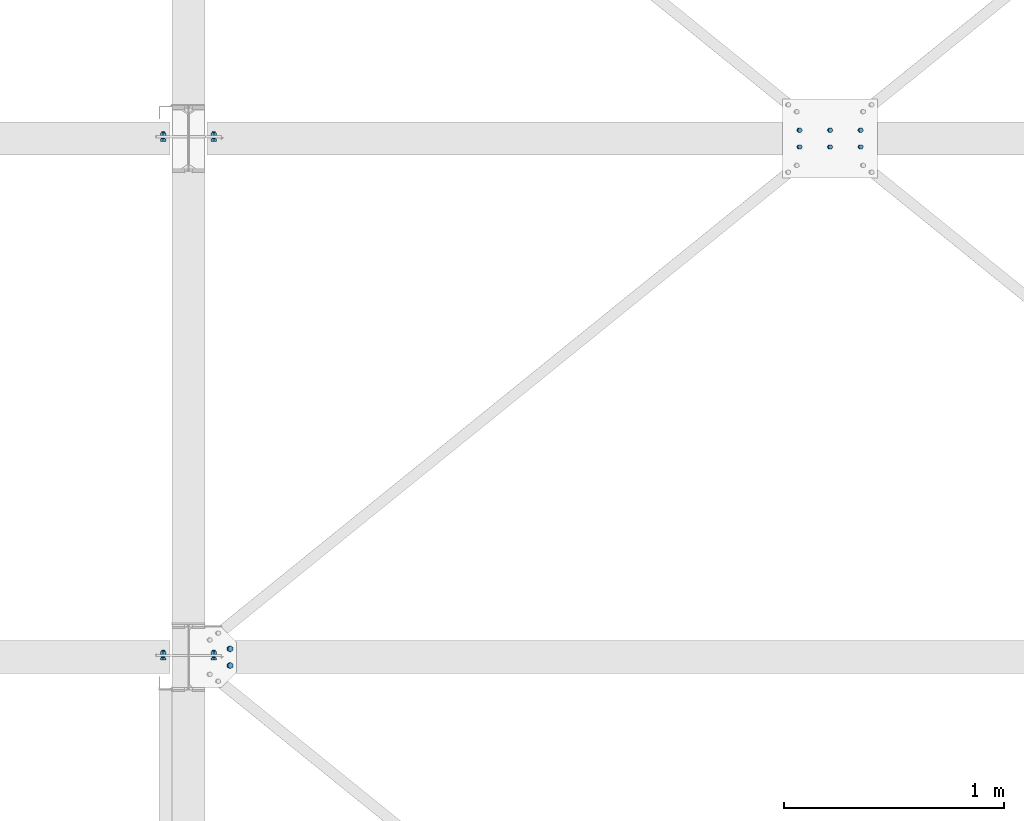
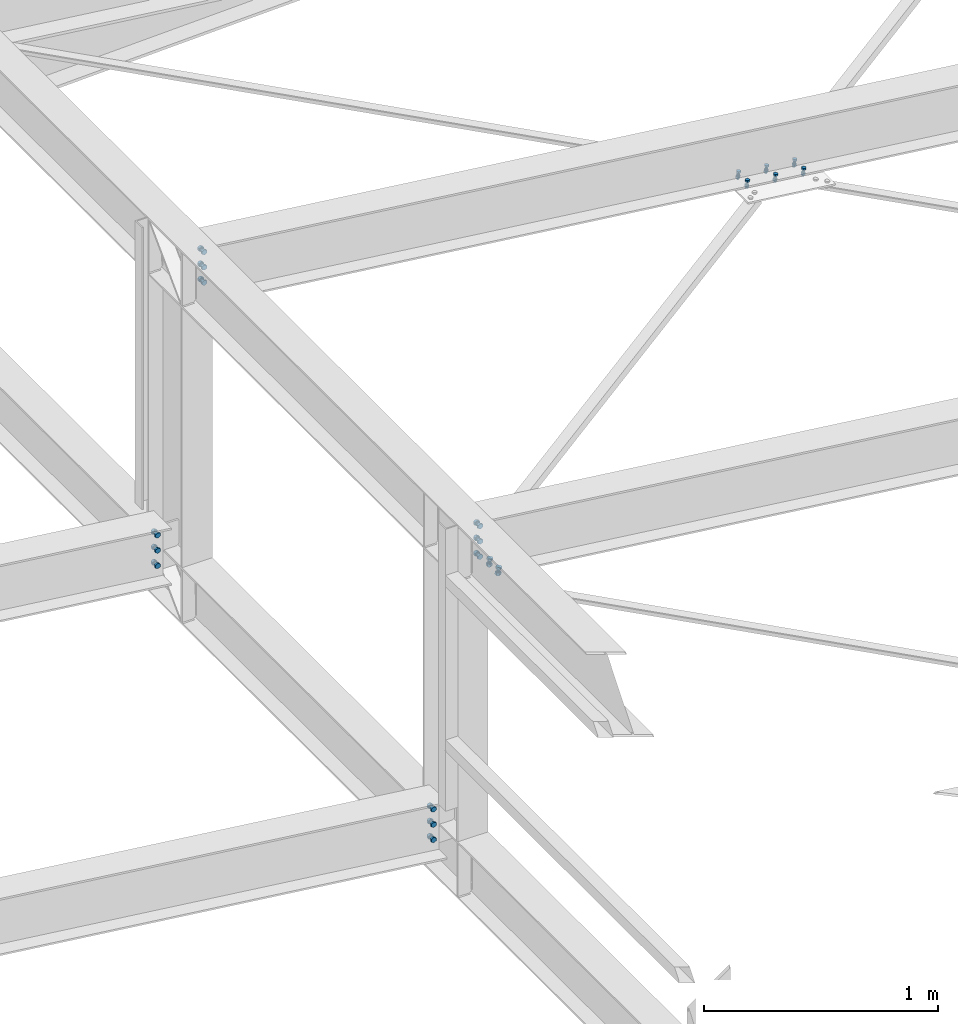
# One storey, part 151 of 3134: 6 mechanical fasteners, 4 elements without a shape of their own.
"""IFC2X3 building model written with IfcOpenShell, lengths in millimetres."""

from ifc_helpers import new_model, si_unit, frame, origin_with_axes, place, context, subcontext, project, spatial, faceted_brep, source, transform, mapped, material, type_object, element, aggregate, save


model = new_model("IFC2X3")

# Units and contexts
model_context = context("Model", 3, precision=1e-05, world=origin_with_axes())
body_context = subcontext(model_context, "Body", "Model", "MODEL_VIEW")
ifc_project = project(units=[si_unit("LENGTHUNIT", "METRE", prefix="MILLI"), si_unit("AREAUNIT", "SQUARE_METRE"), si_unit("VOLUMEUNIT", "CUBIC_METRE"), si_unit("MASSUNIT", "GRAM", prefix="KILO"), si_unit("TIMEUNIT", "SECOND"), si_unit("PLANEANGLEUNIT", "RADIAN"), si_unit("SOLIDANGLEUNIT", "STERADIAN"), si_unit("THERMODYNAMICTEMPERATUREUNIT", "DEGREE_CELSIUS"), si_unit("LUMINOUSINTENSITYUNIT", "LUMEN")], contexts=[model_context])

# Site, building, storey
site_placement = place(None, origin_with_axes())
site = spatial("IfcSite", under=ifc_project, at=site_placement, CompositionType="ELEMENT")
building_placement = place(site_placement, origin_with_axes())
building = spatial("IfcBuilding", under=site, at=building_placement, Name="Undefined", CompositionType="ELEMENT")
storey_placement = place(building_placement, origin_with_axes())
storey = spatial("IfcBuildingStorey", under=building, at=storey_placement, Name="Undefined", CompositionType="ELEMENT", Elevation=0.0)

# Assembly, mechanical fastener
assembly_1_placement = place(storey_placement, origin_with_axes())
assembly_1 = element("IfcElementAssembly", 1, at=assembly_1_placement, inside=storey, Name="300", AssemblyPlace="NOTDEFINED", PredefinedType="RIGID_FRAME")
ifc_material = material(Name="8.8")
mechanical_fastener_type = type_object("IfcMechanicalFastenerType", Name="Bolt assembly")
shared_shape_1 = source(origin_with_axes(), body_context, "Body", "Brep", [
    faceted_brep([(13.856406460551, -19.199990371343, 0.0), (6.92820323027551, -19.199990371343, 12.0), (-6.92820323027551, -19.199990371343, 12.0), (-13.856406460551, -19.199990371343, 1.69692038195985e-15), (-6.92820323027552, -19.199990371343, -12.0), (6.9282032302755, -19.199990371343, -12.0), (6.9282032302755, -9.19999037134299, -12.0), (-6.92820323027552, -9.19999037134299, -12.0), (-13.856406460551, -9.19999037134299, 1.69692038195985e-15), (-6.92820323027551, -9.19999037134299, 12.0), (6.92820323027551, -9.19999037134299, 12.0), (13.856406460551, -9.19999037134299, 0.0), (8.0, -9.19999037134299, 0.0), (6.92820323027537, -9.19999037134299, 4.00000000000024), (3.99999999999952, -9.19999037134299, 6.92820323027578), (-8.29068785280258e-13, -9.19999037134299, 8.0), (-4.00000000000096, -9.19999037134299, 6.92820323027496), (-6.9282032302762, -9.19999037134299, 3.99999999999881), (-8.0, -9.19999037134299, -1.65813757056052e-12), (-6.92820323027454, -9.19999037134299, -4.00000000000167), (-3.99999999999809, -9.19999037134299, -6.92820323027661), (2.47832457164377e-12, -9.19999037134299, -8.0), (4.00000000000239, -9.19999037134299, -6.92820323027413), (6.92820323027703, -9.19999037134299, -3.99999999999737), (6.92820323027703, 25.800009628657, -3.99999999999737), (4.00000000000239, 25.800009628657, -6.92820323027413), (2.47832457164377e-12, 25.800009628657, -8.0), (-3.99999999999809, 25.800009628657, -6.92820323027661), (-6.92820323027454, 25.800009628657, -4.00000000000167), (-8.0, 25.800009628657, -1.65813757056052e-12), (-6.9282032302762, 25.800009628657, 3.99999999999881), (-4.00000000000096, 25.800009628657, 6.92820323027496), (-8.29068785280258e-13, 25.800009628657, 8.0), (3.99999999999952, 25.800009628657, 6.92820323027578), (6.92820323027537, 25.800009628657, 4.00000000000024), (8.0, 25.800009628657, 0.0), (13.856406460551, 8.00000637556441, 0.0), (6.92820323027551, 8.00000637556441, 12.0), (-6.92820323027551, 8.00000637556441, 12.0), (-13.856406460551, 8.00000637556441, 1.69692038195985e-15), (-6.92820323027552, 8.00000637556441, -12.0), (6.9282032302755, 8.00000637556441, -12.0), (6.9282032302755, 21.0000063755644, -12.0), (-6.92820323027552, 21.0000063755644, -12.0), (-13.856406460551, 21.0000063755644, 1.69692038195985e-15), (-6.92820323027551, 21.0000063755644, 12.0), (6.92820323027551, 21.0000063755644, 12.0), (13.856406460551, 21.0000063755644, 0.0)], [[[0, 1, 2, 3, 4, 5]], [[6, 7, 8, 9, 10, 11]], [[0, 11, 10, 1]], [[1, 10, 9, 2]], [[2, 9, 8, 3]], [[3, 8, 7, 4]], [[4, 7, 6, 5]], [[5, 6, 11, 0]], [[12, 13, 14, 15, 16, 17, 18, 19, 20, 21, 22, 23]], [[24, 25, 26, 27, 28, 29, 30, 31, 32, 33, 34, 35]], [[12, 35, 34, 13]], [[13, 34, 33, 14]], [[14, 33, 32, 15]], [[15, 32, 31, 16]], [[16, 31, 30, 17]], [[17, 30, 29, 18]], [[18, 29, 28, 19]], [[19, 28, 27, 20]], [[20, 27, 26, 21]], [[21, 26, 25, 22]], [[22, 25, 24, 23]], [[23, 24, 35, 12]], [[36, 37, 38, 39, 40, 41]], [[42, 43, 44, 45, 46, 47]], [[36, 47, 46, 37]], [[37, 46, 45, 38]], [[38, 45, 44, 39]], [[39, 44, 43, 40]], [[40, 43, 42, 41]], [[41, 42, 47, 36]]]),
    faceted_brep([(9.0, -0.1, 0.0), (7.79422863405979, -0.1, 4.50000000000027), (4.49999999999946, -0.1, 7.79422863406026), (-9.3270238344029e-13, -0.1, 9.0), (-4.50000000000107, -0.1, 7.79422863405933), (-7.79422863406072, -0.1, 4.49999999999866), (-9.0, -0.1, -1.86540476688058e-12), (-7.79422863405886, -0.1, -4.50000000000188), (-4.49999999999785, -0.1, -7.79422863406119), (2.78811514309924e-12, -0.1, -9.0), (4.50000000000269, -0.1, -7.7942286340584), (7.79422863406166, -0.1, -4.49999999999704), (7.79422863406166, 8.00000000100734, -4.49999999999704), (4.50000000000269, 8.00000000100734, -7.7942286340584), (2.78811514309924e-12, 8.00000000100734, -9.0), (-4.49999999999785, 8.00000000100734, -7.79422863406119), (-7.79422863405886, 8.00000000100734, -4.50000000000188), (-9.0, 8.00000000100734, -1.86540476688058e-12), (-7.79422863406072, 8.00000000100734, 4.49999999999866), (-4.50000000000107, 8.00000000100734, 7.79422863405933), (-9.3270238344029e-13, 8.00000000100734, 9.0), (4.49999999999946, 8.00000000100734, 7.79422863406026), (7.79422863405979, 8.00000000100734, 4.50000000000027), (9.0, 8.00000000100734, 0.0), (9.0, -9.09999037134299, 0.0), (7.79422863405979, -9.09999037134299, 4.50000000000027), (4.49999999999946, -9.09999037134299, 7.79422863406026), (-9.3270238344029e-13, -9.09999037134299, 9.0), (-4.50000000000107, -9.09999037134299, 7.79422863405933), (-7.79422863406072, -9.09999037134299, 4.49999999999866), (-9.0, -9.09999037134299, -1.86540476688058e-12), (-7.79422863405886, -9.09999037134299, -4.50000000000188), (-4.49999999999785, -9.09999037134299, -7.79422863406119), (2.78811514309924e-12, -9.09999037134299, -9.0), (4.50000000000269, -9.09999037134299, -7.7942286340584), (7.79422863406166, -9.09999037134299, -4.49999999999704), (7.79422863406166, 0.100000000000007, -4.49999999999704), (4.50000000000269, 0.100000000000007, -7.7942286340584), (2.78811514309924e-12, 0.100000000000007, -9.0), (-4.49999999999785, 0.100000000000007, -7.79422863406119), (-7.79422863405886, 0.100000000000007, -4.50000000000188), (-9.0, 0.100000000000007, -1.86540476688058e-12), (-7.79422863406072, 0.100000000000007, 4.49999999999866), (-4.50000000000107, 0.100000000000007, 7.79422863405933), (-9.3270238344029e-13, 0.100000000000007, 9.0), (4.49999999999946, 0.100000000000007, 7.79422863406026), (7.79422863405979, 0.100000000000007, 4.50000000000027), (9.0, 0.100000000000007, 0.0)], [[[0, 1, 2, 3, 4, 5, 6, 7, 8, 9, 10, 11]], [[12, 13, 14, 15, 16, 17, 18, 19, 20, 21, 22, 23]], [[0, 23, 22, 1]], [[1, 22, 21, 2]], [[2, 21, 20, 3]], [[3, 20, 19, 4]], [[4, 19, 18, 5]], [[5, 18, 17, 6]], [[6, 17, 16, 7]], [[7, 16, 15, 8]], [[8, 15, 14, 9]], [[9, 14, 13, 10]], [[10, 13, 12, 11]], [[11, 12, 23, 0]], [[24, 25, 26, 27, 28, 29, 30, 31, 32, 33, 34, 35]], [[36, 37, 38, 39, 40, 41, 42, 43, 44, 45, 46, 47]], [[24, 47, 46, 25]], [[25, 46, 45, 26]], [[26, 45, 44, 27]], [[27, 44, 43, 28]], [[28, 43, 42, 29]], [[29, 42, 41, 30]], [[30, 41, 40, 31]], [[31, 40, 39, 32]], [[32, 39, 38, 33]], [[33, 38, 37, 34]], [[34, 37, 36, 35]], [[35, 36, 47, 24]]]),
])
mechanical_fastener_1_placement = place(assembly_1_placement, frame((56064.2248162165, 14767.9995130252, 5496.68063425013), z_axis=(0.992623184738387, 1.63108538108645e-05, -0.12124031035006), x_axis=(1.62000016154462e-05, -0.999999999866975, -1.90000018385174e-06)))
mechanical_fastener_1 = element("IfcMechanicalFastener", 2, at=mechanical_fastener_1_placement, type_object=mechanical_fastener_type, material=ifc_material, Name="Bolt assembly", NominalDiameter=16.0, NominalLength=35.0, context=body_context, shape_type="MappedRepresentation", body=[
    mapped(shared_shape_1, transform((0.0, 0.0, 0.0))),
    mapped(shared_shape_1, transform((76.0, 0.0, 0.0))),
])

assembly_2_placement = place(storey_placement, origin_with_axes())
assembly_2 = element("IfcElementAssembly", 3, at=assembly_2_placement, inside=storey, Name="300", AssemblyPlace="NOTDEFINED", PredefinedType="RIGID_FRAME")
shared_shape_2 = source(origin_with_axes(), body_context, "Body", "Brep", [
    faceted_brep([(13.856406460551, -13.0499999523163, 0.0), (6.92820323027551, -13.0499999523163, 12.0), (-6.92820323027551, -13.0499999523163, 12.0), (-13.856406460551, -13.0499999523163, 1.69692038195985e-15), (-6.92820323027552, -13.0499999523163, -12.0), (6.9282032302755, -13.0499999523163, -12.0), (6.9282032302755, -3.04999995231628, -12.0), (-6.92820323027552, -3.04999995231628, -12.0), (-13.856406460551, -3.04999995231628, 1.69692038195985e-15), (-6.92820323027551, -3.04999995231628, 12.0), (6.92820323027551, -3.04999995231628, 12.0), (13.856406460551, -3.04999995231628, 0.0), (8.0, -3.04999995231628, 0.0), (6.92820323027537, -3.04999995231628, 4.00000000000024), (3.99999999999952, -3.04999995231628, 6.92820323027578), (-8.29068785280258e-13, -3.04999995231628, 8.0), (-4.00000000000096, -3.04999995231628, 6.92820323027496), (-6.9282032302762, -3.04999995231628, 3.99999999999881), (-8.0, -3.04999995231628, -1.65813757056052e-12), (-6.92820323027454, -3.04999995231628, -4.00000000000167), (-3.99999999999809, -3.04999995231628, -6.92820323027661), (2.47832457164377e-12, -3.04999995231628, -8.0), (4.00000000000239, -3.04999995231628, -6.92820323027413), (6.92820323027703, -3.04999995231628, -3.99999999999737), (6.92820323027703, 31.9500000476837, -3.99999999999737), (4.00000000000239, 31.9500000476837, -6.92820323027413), (2.47832457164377e-12, 31.9500000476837, -8.0), (-3.99999999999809, 31.9500000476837, -6.92820323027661), (-6.92820323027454, 31.9500000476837, -4.00000000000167), (-8.0, 31.9500000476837, -1.65813757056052e-12), (-6.9282032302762, 31.9500000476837, 3.99999999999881), (-4.00000000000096, 31.9500000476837, 6.92820323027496), (-8.29068785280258e-13, 31.9500000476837, 8.0), (3.99999999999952, 31.9500000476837, 6.92820323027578), (6.92820323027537, 31.9500000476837, 4.00000000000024), (8.0, 31.9500000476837, 0.0), (13.856406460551, 13.0500000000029, 0.0), (6.92820323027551, 13.0500000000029, 12.0), (-6.92820323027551, 13.0500000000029, 12.0), (-13.856406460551, 13.0500000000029, 1.69692038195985e-15), (-6.92820323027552, 13.0500000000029, -12.0), (6.9282032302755, 13.0500000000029, -12.0), (6.9282032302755, 26.0500000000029, -12.0), (-6.92820323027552, 26.0500000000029, -12.0), (-13.856406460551, 26.0500000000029, 1.69692038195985e-15), (-6.92820323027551, 26.0500000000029, 12.0), (6.92820323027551, 26.0500000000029, 12.0), (13.856406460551, 26.0500000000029, 0.0)], [[[0, 1, 2, 3, 4, 5]], [[6, 7, 8, 9, 10, 11]], [[0, 11, 10, 1]], [[1, 10, 9, 2]], [[2, 9, 8, 3]], [[3, 8, 7, 4]], [[4, 7, 6, 5]], [[5, 6, 11, 0]], [[12, 13, 14, 15, 16, 17, 18, 19, 20, 21, 22, 23]], [[24, 25, 26, 27, 28, 29, 30, 31, 32, 33, 34, 35]], [[12, 35, 34, 13]], [[13, 34, 33, 14]], [[14, 33, 32, 15]], [[15, 32, 31, 16]], [[16, 31, 30, 17]], [[17, 30, 29, 18]], [[18, 29, 28, 19]], [[19, 28, 27, 20]], [[20, 27, 26, 21]], [[21, 26, 25, 22]], [[22, 25, 24, 23]], [[23, 24, 35, 12]], [[36, 37, 38, 39, 40, 41]], [[42, 43, 44, 45, 46, 47]], [[36, 47, 46, 37]], [[37, 46, 45, 38]], [[38, 45, 44, 39]], [[39, 44, 43, 40]], [[40, 43, 42, 41]], [[41, 42, 47, 36]]]),
    faceted_brep([(9.0, 2.95000000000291, 0.0), (7.79422863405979, 2.95000000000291, 4.50000000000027), (4.49999999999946, 2.95000000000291, 7.79422863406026), (-9.3270238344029e-13, 2.95000000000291, 9.0), (-4.50000000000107, 2.95000000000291, 7.79422863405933), (-7.79422863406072, 2.95000000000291, 4.49999999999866), (-9.0, 2.95000000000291, -1.86540476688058e-12), (-7.79422863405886, 2.95000000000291, -4.50000000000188), (-4.49999999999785, 2.95000000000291, -7.79422863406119), (2.78811514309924e-12, 2.95000000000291, -9.0), (4.50000000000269, 2.95000000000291, -7.7942286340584), (7.79422863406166, 2.95000000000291, -4.49999999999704), (7.79422863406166, 13.0500000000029, -4.49999999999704), (4.50000000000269, 13.0500000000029, -7.7942286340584), (2.78811514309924e-12, 13.0500000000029, -9.0), (-4.49999999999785, 13.0500000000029, -7.79422863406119), (-7.79422863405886, 13.0500000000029, -4.50000000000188), (-9.0, 13.0500000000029, -1.86540476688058e-12), (-7.79422863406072, 13.0500000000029, 4.49999999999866), (-4.50000000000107, 13.0500000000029, 7.79422863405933), (-9.3270238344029e-13, 13.0500000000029, 9.0), (4.49999999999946, 13.0500000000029, 7.79422863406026), (7.79422863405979, 13.0500000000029, 4.50000000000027), (9.0, 13.0500000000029, 0.0), (9.0, -2.94999995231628, 0.0), (7.79422863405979, -2.94999995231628, 4.50000000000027), (4.49999999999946, -2.94999995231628, 7.79422863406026), (-9.3270238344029e-13, -2.94999995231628, 9.0), (-4.50000000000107, -2.94999995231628, 7.79422863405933), (-7.79422863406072, -2.94999995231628, 4.49999999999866), (-9.0, -2.94999995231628, -1.86540476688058e-12), (-7.79422863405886, -2.94999995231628, -4.50000000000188), (-4.49999999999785, -2.94999995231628, -7.79422863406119), (2.78811514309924e-12, -2.94999995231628, -9.0), (4.50000000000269, -2.94999995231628, -7.7942286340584), (7.79422863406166, -2.94999995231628, -4.49999999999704), (7.79422863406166, 3.14999995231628, -4.49999999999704), (4.50000000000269, 3.14999995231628, -7.7942286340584), (2.78811514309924e-12, 3.14999995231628, -9.0), (-4.49999999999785, 3.14999995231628, -7.79422863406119), (-7.79422863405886, 3.14999995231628, -4.50000000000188), (-9.0, 3.14999995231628, -1.86540476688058e-12), (-7.79422863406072, 3.14999995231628, 4.49999999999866), (-4.50000000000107, 3.14999995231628, 7.79422863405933), (-9.3270238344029e-13, 3.14999995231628, 9.0), (4.49999999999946, 3.14999995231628, 7.79422863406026), (7.79422863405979, 3.14999995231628, 4.50000000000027), (9.0, 3.14999995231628, 0.0)], [[[0, 1, 2, 3, 4, 5, 6, 7, 8, 9, 10, 11]], [[12, 13, 14, 15, 16, 17, 18, 19, 20, 21, 22, 23]], [[0, 23, 22, 1]], [[1, 22, 21, 2]], [[2, 21, 20, 3]], [[3, 20, 19, 4]], [[4, 19, 18, 5]], [[5, 18, 17, 6]], [[6, 17, 16, 7]], [[7, 16, 15, 8]], [[8, 15, 14, 9]], [[9, 14, 13, 10]], [[10, 13, 12, 11]], [[11, 12, 23, 0]], [[24, 25, 26, 27, 28, 29, 30, 31, 32, 33, 34, 35]], [[36, 37, 38, 39, 40, 41, 42, 43, 44, 45, 46, 47]], [[24, 47, 46, 25]], [[25, 46, 45, 26]], [[26, 45, 44, 27]], [[27, 44, 43, 28]], [[28, 43, 42, 29]], [[29, 42, 41, 30]], [[30, 41, 40, 31]], [[31, 40, 39, 32]], [[32, 39, 38, 33]], [[33, 38, 37, 34]], [[34, 37, 36, 35]], [[35, 36, 47, 24]]]),
])
mechanical_fastener_2_placement = place(assembly_2_placement, frame((55760.0, 17090.0, 4337.44269270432), z_axis=(1.0, 0.0, 0.0), x_axis=(0.0, 0.0, -1.0)))
mechanical_fastener_2 = element("IfcMechanicalFastener", 4, at=mechanical_fastener_2_placement, type_object=mechanical_fastener_type, material=ifc_material, Name="Bolt assembly", NominalDiameter=16.0, NominalLength=35.0, context=body_context, shape_type="MappedRepresentation", body=[
    mapped(shared_shape_2, transform((0.0, 0.0, 0.0))),
    mapped(shared_shape_2, transform((80.0, 0.0, 0.0))),
    mapped(shared_shape_2, transform((160.0, 0.0, 0.0))),
])
aggregate(assembly_2, [mechanical_fastener_2])

assembly_3_placement = place(storey_placement, origin_with_axes())
assembly_3 = element("IfcElementAssembly", 5, at=assembly_3_placement, inside=storey, Name="300", AssemblyPlace="NOTDEFINED", PredefinedType="RIGID_FRAME")
mechanical_fastener_3_placement = place(assembly_3_placement, frame((55760.0000000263, 14730.0, 4337.44269268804), z_axis=(1.0, 0.0, 0.0), x_axis=(0.0, 0.0, -1.0)))
mechanical_fastener_3 = element("IfcMechanicalFastener", 6, at=mechanical_fastener_3_placement, type_object=mechanical_fastener_type, material=ifc_material, Name="Bolt assembly", NominalDiameter=16.0, NominalLength=35.0, context=body_context, shape_type="MappedRepresentation", body=[
    mapped(shared_shape_2, transform((0.0, 0.0, 0.0))),
    mapped(shared_shape_2, transform((80.0, 0.0, 0.0))),
    mapped(shared_shape_2, transform((160.0, 0.0, 0.0))),
])
aggregate(assembly_3, [mechanical_fastener_3])

# Mechanical fastener
mechanical_fastener_4_placement = place(assembly_1_placement, frame((55989.9999999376, 14730.0, 5735.35014954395), z_axis=(1.0, 0.0, 0.0), x_axis=(0.0, 0.0, -1.0)))
mechanical_fastener_4 = element("IfcMechanicalFastener", 7, at=mechanical_fastener_4_placement, type_object=mechanical_fastener_type, material=ifc_material, Name="Bolt assembly", NominalDiameter=16.0, NominalLength=35.0, context=body_context, shape_type="MappedRepresentation", body=[
    mapped(shared_shape_2, transform((0.0, 0.0, 0.0))),
    mapped(shared_shape_2, transform((80.0, 0.0, 0.0))),
    mapped(shared_shape_2, transform((160.0, 0.0, 0.0))),
])

aggregate(assembly_1, [mechanical_fastener_4, mechanical_fastener_1])

# Assembly, mechanical fasteners
assembly_4_placement = place(storey_placement, origin_with_axes())
assembly_4 = element("IfcElementAssembly", 8, at=assembly_4_placement, inside=storey, Name="300", AssemblyPlace="NOTDEFINED", PredefinedType="RIGID_FRAME")
mechanical_fastener_5_placement = place(assembly_4_placement, frame((55990.0, 17090.0, 5735.35014950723), z_axis=(1.0, 0.0, 0.0), x_axis=(0.0, 0.0, -1.0)))
mechanical_fastener_5 = element("IfcMechanicalFastener", 9, at=mechanical_fastener_5_placement, type_object=mechanical_fastener_type, material=ifc_material, Name="Bolt assembly", NominalDiameter=16.0, NominalLength=35.0, context=body_context, shape_type="MappedRepresentation", body=[
    mapped(shared_shape_2, transform((0.0, 0.0, 0.0))),
    mapped(shared_shape_2, transform((80.0, 0.0, 0.0))),
    mapped(shared_shape_2, transform((160.0, 0.0, 0.0))),
])
shared_shape_3 = source(origin_with_axes(), body_context, "Body", "Brep", [
    faceted_brep([(10.9696551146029, -17.1999998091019, 0.0), (5.48482755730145, -17.1999998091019, 9.5), (-5.48482755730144, -17.1999998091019, 9.5), (-10.9696551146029, -17.1999998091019, 1.34339530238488e-15), (-5.48482755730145, -17.1999998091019, -9.5), (5.48482755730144, -17.1999998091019, -9.50000000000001), (5.48482755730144, -9.19999978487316, -9.50000000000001), (-5.48482755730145, -9.19999978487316, -9.5), (-10.9696551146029, -9.19999978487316, 1.34339530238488e-15), (-5.48482755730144, -9.19999978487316, 9.5), (5.48482755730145, -9.19999978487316, 9.5), (10.9696551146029, -9.19999978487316, 0.0), (6.0, -9.19999978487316, 0.0), (5.19615242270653, -9.19999978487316, 3.00000000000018), (2.99999999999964, -9.19999978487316, 5.19615242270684), (-6.21801588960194e-13, -9.19999978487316, 6.0), (-3.00000000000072, -9.19999978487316, 5.19615242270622), (-5.19615242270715, -9.19999978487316, 2.9999999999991), (-6.0, -9.19999978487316, -1.24360317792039e-12), (-5.19615242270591, -9.19999978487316, -3.00000000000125), (-2.99999999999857, -9.19999978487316, -5.19615242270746), (1.85874342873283e-12, -9.19999978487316, -6.0), (3.00000000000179, -9.19999978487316, -5.1961524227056), (5.19615242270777, -9.19999978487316, -2.99999999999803), (5.19615242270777, 25.8000002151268, -2.99999999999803), (3.00000000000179, 25.8000002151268, -5.1961524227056), (1.85874342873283e-12, 25.8000002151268, -6.0), (-2.99999999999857, 25.8000002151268, -5.19615242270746), (-5.19615242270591, 25.8000002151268, -3.00000000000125), (-6.0, 25.8000002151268, -1.24360317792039e-12), (-5.19615242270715, 25.8000002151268, 2.9999999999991), (-3.00000000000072, 25.8000002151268, 5.19615242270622), (-6.21801588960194e-13, 25.8000002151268, 6.0), (2.99999999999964, 25.8000002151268, 5.19615242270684), (5.19615242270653, 25.8000002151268, 3.00000000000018), (6.0, 25.8000002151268, 0.0), (10.9696551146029, 8.0, 0.0), (5.48482755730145, 8.0, 9.5), (-5.48482755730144, 8.0, 9.5), (-10.9696551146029, 8.0, 1.34339530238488e-15), (-5.48482755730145, 8.0, -9.5), (5.48482755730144, 8.0, -9.50000000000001), (5.48482755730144, 18.0, -9.50000000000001), (-5.48482755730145, 18.0, -9.5), (-10.9696551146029, 18.0, 1.34339530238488e-15), (-5.48482755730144, 18.0, 9.5), (5.48482755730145, 18.0, 9.5), (10.9696551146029, 18.0, 0.0)], [[[0, 1, 2, 3, 4, 5]], [[6, 7, 8, 9, 10, 11]], [[0, 11, 10, 1]], [[1, 10, 9, 2]], [[2, 9, 8, 3]], [[3, 8, 7, 4]], [[4, 7, 6, 5]], [[5, 6, 11, 0]], [[12, 13, 14, 15, 16, 17, 18, 19, 20, 21, 22, 23]], [[24, 25, 26, 27, 28, 29, 30, 31, 32, 33, 34, 35]], [[12, 35, 34, 13]], [[13, 34, 33, 14]], [[14, 33, 32, 15]], [[15, 32, 31, 16]], [[16, 31, 30, 17]], [[17, 30, 29, 18]], [[18, 29, 28, 19]], [[19, 28, 27, 20]], [[20, 27, 26, 21]], [[21, 26, 25, 22]], [[22, 25, 24, 23]], [[23, 24, 35, 12]], [[36, 37, 38, 39, 40, 41]], [[42, 43, 44, 45, 46, 47]], [[36, 47, 46, 37]], [[37, 46, 45, 38]], [[38, 45, 44, 39]], [[39, 44, 43, 40]], [[40, 43, 42, 41]], [[41, 42, 47, 36]]]),
    faceted_brep([(7.0, -0.1, 0.0), (6.06217782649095, -0.1, 3.50000000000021), (3.49999999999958, -0.1, 6.06217782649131), (-7.25435187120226e-13, -0.1, 7.0), (-3.50000000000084, -0.1, 6.06217782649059), (-6.06217782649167, -0.1, 3.49999999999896), (-7.0, -0.1, -1.45087037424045e-12), (-6.06217782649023, -0.1, -3.50000000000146), (-3.49999999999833, -0.1, -6.06217782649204), (2.1685340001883e-12, -0.1, -7.0), (3.50000000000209, -0.1, -6.06217782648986), (6.0621778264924, -0.1, -3.4999999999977), (6.0621778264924, 8.0000000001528, -3.4999999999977), (3.50000000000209, 8.0000000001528, -6.06217782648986), (2.1685340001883e-12, 8.0000000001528, -7.0), (-3.49999999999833, 8.0000000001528, -6.06217782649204), (-6.06217782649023, 8.0000000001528, -3.50000000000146), (-7.0, 8.0000000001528, -1.45087037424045e-12), (-6.06217782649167, 8.0000000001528, 3.49999999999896), (-3.50000000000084, 8.0000000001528, 6.06217782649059), (-7.25435187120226e-13, 8.0000000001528, 7.0), (3.49999999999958, 8.0000000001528, 6.06217782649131), (6.06217782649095, 8.0000000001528, 3.50000000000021), (7.0, 8.0000000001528, 0.0), (7.0, -9.09999980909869, 0.0), (6.06217782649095, -9.09999980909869, 3.50000000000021), (3.49999999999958, -9.09999980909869, 6.06217782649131), (-7.25435187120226e-13, -9.09999980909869, 7.0), (-3.50000000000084, -9.09999980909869, 6.06217782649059), (-6.06217782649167, -9.09999980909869, 3.49999999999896), (-7.0, -9.09999980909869, -1.45087037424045e-12), (-6.06217782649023, -9.09999980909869, -3.50000000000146), (-3.49999999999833, -9.09999980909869, -6.06217782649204), (2.1685340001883e-12, -9.09999980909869, -7.0), (3.50000000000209, -9.09999980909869, -6.06217782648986), (6.0621778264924, -9.09999980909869, -3.4999999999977), (6.0621778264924, 0.0999999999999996, -3.4999999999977), (3.50000000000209, 0.0999999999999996, -6.06217782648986), (2.1685340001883e-12, 0.0999999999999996, -7.0), (-3.49999999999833, 0.0999999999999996, -6.06217782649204), (-6.06217782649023, 0.0999999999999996, -3.50000000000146), (-7.0, 0.0999999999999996, -1.45087037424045e-12), (-6.06217782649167, 0.0999999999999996, 3.49999999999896), (-3.50000000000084, 0.0999999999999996, 6.06217782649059), (-7.25435187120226e-13, 0.0999999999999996, 7.0), (3.49999999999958, 0.0999999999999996, 6.06217782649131), (6.06217782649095, 0.0999999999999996, 3.50000000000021), (7.0, 0.0999999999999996, 0.0)], [[[0, 1, 2, 3, 4, 5, 6, 7, 8, 9, 10, 11]], [[12, 13, 14, 15, 16, 17, 18, 19, 20, 21, 22, 23]], [[0, 23, 22, 1]], [[1, 22, 21, 2]], [[2, 21, 20, 3]], [[3, 20, 19, 4]], [[4, 19, 18, 5]], [[5, 18, 17, 6]], [[6, 17, 16, 7]], [[7, 16, 15, 8]], [[8, 15, 14, 9]], [[9, 14, 13, 10]], [[10, 13, 12, 11]], [[11, 12, 23, 0]], [[24, 25, 26, 27, 28, 29, 30, 31, 32, 33, 34, 35]], [[36, 37, 38, 39, 40, 41, 42, 43, 44, 45, 46, 47]], [[24, 47, 46, 25]], [[25, 46, 45, 26]], [[26, 45, 44, 27]], [[27, 44, 43, 28]], [[28, 43, 42, 29]], [[29, 42, 41, 30]], [[30, 41, 40, 31]], [[31, 40, 39, 32]], [[32, 39, 38, 33]], [[33, 38, 37, 34]], [[34, 37, 36, 35]], [[35, 36, 47, 24]]]),
])
mechanical_fastener_6_placement = place(assembly_4_placement, frame((58933.2022067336, 17090.0, 5146.25993623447), z_axis=(0.0, -1.0, 0.0), x_axis=(-0.992623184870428, 0.0, 0.121240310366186)))
mechanical_fastener_6 = element("IfcMechanicalFastener", 10, at=mechanical_fastener_6_placement, type_object=mechanical_fastener_type, material=ifc_material, Name="Bolt assembly", NominalDiameter=12.0, NominalLength=35.0, context=body_context, shape_type="MappedRepresentation", body=[
    mapped(shared_shape_3, transform((0.0, 0.0, -38.0))),
    mapped(shared_shape_3, transform((140.000000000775, 5.85714587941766e-10, -38.0))),
    mapped(shared_shape_3, transform((279.999999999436, -4.74756234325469e-10, -38.0))),
    mapped(shared_shape_3, transform((0.0, 0.0, 38.0))),
    mapped(shared_shape_3, transform((140.000000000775, 5.85714587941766e-10, 38.0))),
    mapped(shared_shape_3, transform((279.999999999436, -4.74756234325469e-10, 38.0))),
])
aggregate(assembly_4, [mechanical_fastener_6, mechanical_fastener_5])

save(model, "model.ifc")
